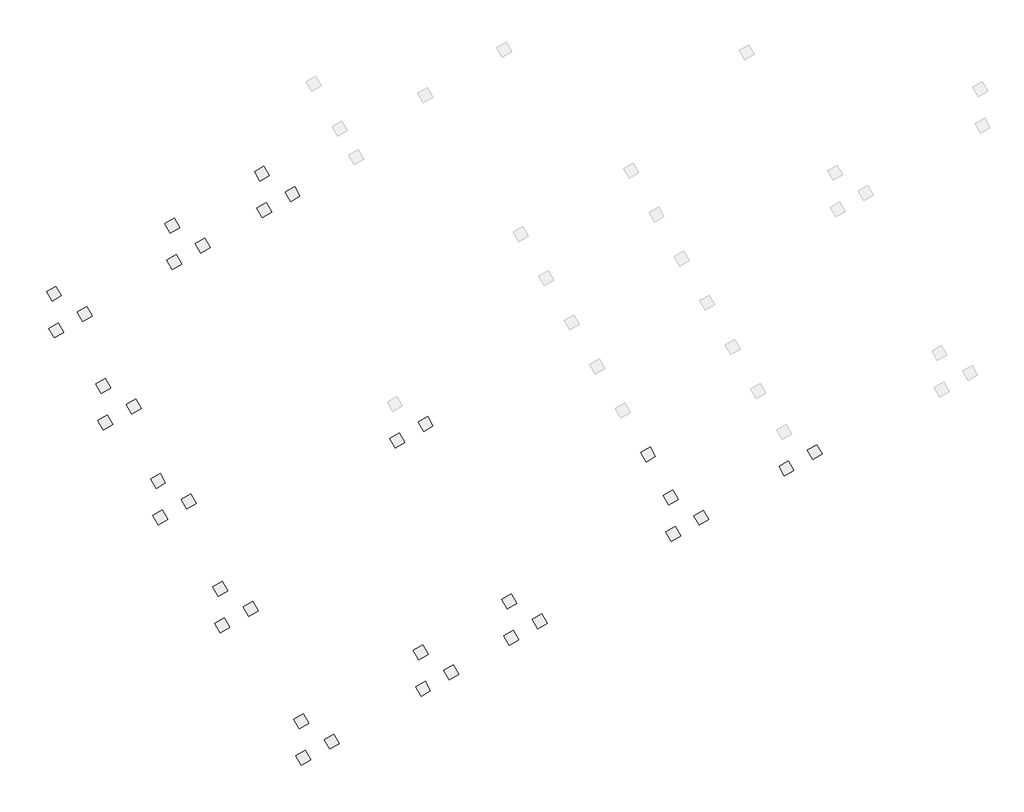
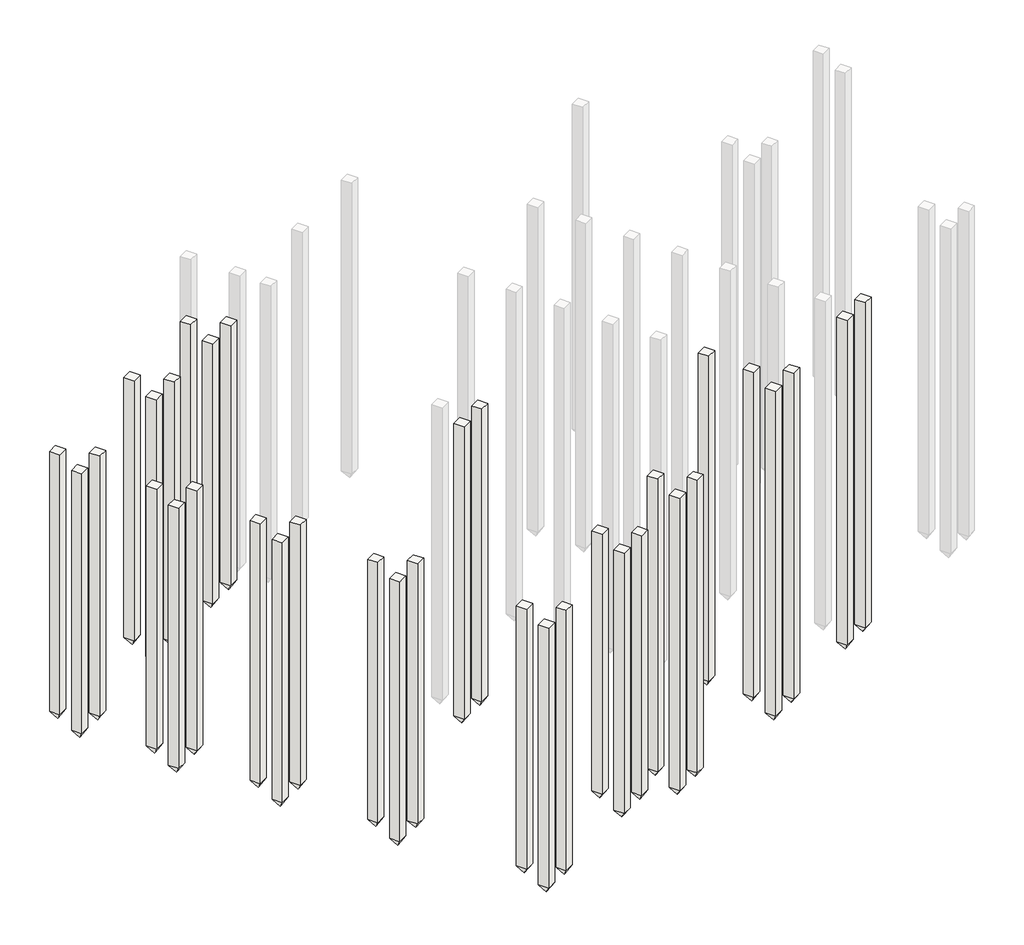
# One storey, part 1 of 6: 35 slabs.
"""IFC4 building model written with IfcOpenShell, lengths in millimetres."""

import ifcopenshell
import ifcopenshell.guid

model = None  # the IFC model being written
_history = None  # IfcOwnerHistory: only IFC2X3 demands one
_inside = {}  # id of a spatial element -> (the spatial element, [elements in it])
_under = {}  # id of a project, library or spatial element -> (it, [spatial elements below it])
_declared = {}  # id of a project -> (the project, [libraries it declares])
_typed = {}  # id of a type object -> (the type object, [elements of that type])
_made_of = {}  # id of a material, layer set ... -> (it, [elements and type objects made of it])


def new_model(schema):
    """Start an empty IFC model of exactly this schema.

    Asked for "IFC4X3", IfcOpenShell would pick the latest addendum, in which some entities
    have other attributes; the version numbers below select the first issue.
    IFC2X3 requires an IfcOwnerHistory on every rooted entity: one is made here for all.
    """
    global model, _history
    if schema == "IFC4X3":
        model = ifcopenshell.file(schema_version=(4, 3, 0, 0))
    else:
        model = ifcopenshell.file(schema=schema)
    _inside.clear()
    _under.clear()
    _declared.clear()
    _typed.clear()
    _made_of.clear()
    _history = None
    if model.schema == "IFC2X3":
        org = make("IfcOrganization", Name="unknown")
        user = make(
            "IfcPersonAndOrganization",
            ThePerson=make("IfcPerson", FamilyName="unknown"),
            TheOrganization=org,
        )
        app = make(
            "IfcApplication",
            ApplicationDeveloper=org,
            Version="unknown",
            ApplicationFullName="unknown",
            ApplicationIdentifier="unknown",
        )
        _history = make(
            "IfcOwnerHistory",
            OwningUser=user,
            OwningApplication=app,
            ChangeAction="ADDED",
            CreationDate=0,
        )
    return model


def make(cls, **values):
    """One entity of the class cls with the attributes given. An attribute that is None is left unset."""
    return model.create_entity(
        cls, **{name: value for name, value in values.items() if value is not None}
    )


def rooted(cls, **values):
    """An entity with a GlobalId (a new one), such as an element, a storey or a relation."""
    return make(cls, GlobalId=ifcopenshell.guid.new(), OwnerHistory=_history, **values)


def si_unit(unit_type, name, prefix=None):
    """IfcSIUnit, for example si_unit("LENGTHUNIT", "METRE", prefix="MILLI")."""
    return make("IfcSIUnit", UnitType=unit_type, Prefix=prefix, Name=name)


def assignment(units):
    """IfcUnitAssignment: the units of a project."""
    return None if units is None else make("IfcUnitAssignment", Units=units)


def point(xyz):
    """IfcCartesianPoint."""
    return None if xyz is None else make("IfcCartesianPoint", Coordinates=xyz)


def direction(xyz):
    """IfcDirection."""
    return None if xyz is None else make("IfcDirection", DirectionRatios=xyz)


def frame(location, z_axis=None, x_axis=None):
    """IfcAxis2Placement3D, a coordinate frame: its origin and axes. An axis left out is left unset."""
    return make(
        "IfcAxis2Placement3D",
        Location=point(location),
        Axis=direction(z_axis),
        RefDirection=direction(x_axis),
    )


def origin():
    """The frame at (0, 0, 0) with its axes left unset."""
    return frame((0.0, 0.0, 0.0))


def place(relative_to, where):
    """IfcLocalPlacement: puts the frame where relative to a parent placement (None: the world)."""
    return make(
        "IfcLocalPlacement", PlacementRelTo=relative_to, RelativePlacement=where
    )


def context(
    kind, dimensions, precision=None, world=None, true_north=None, identifier=None
):
    """IfcGeometricRepresentationContext, for example the 3D "Model" context."""
    return make(
        "IfcGeometricRepresentationContext",
        ContextIdentifier=identifier,
        ContextType=kind,
        CoordinateSpaceDimension=dimensions,
        Precision=precision,
        WorldCoordinateSystem=world,
        TrueNorth=true_north,
    )


def project(units=None, contexts=None):
    """IfcProject with its units and contexts."""
    return rooted(
        "IfcProject",
        Name="project",
        RepresentationContexts=contexts,
        UnitsInContext=assignment(units),
    )


def spatial(cls, under=None, at=None, **own):
    """A site, building, storey or space (cls), placed at a placement, below another one or the project."""
    s = rooted(cls, ObjectPlacement=at, **own)
    if under is not None:
        _under.setdefault(under.id(), (under, []))[1].append(s)
    return s


def faces_of(points, faces, orient=None, outer=None):
    """IfcFace entities. A face is a list of loops; a loop is a list of indices into points, from 0.

    orient and outer hold one flag for each loop. By default every Orientation is true, the
    first loop of a face is its IfcFaceOuterBound and the others are IfcFaceBound.
    """
    made = []
    for i, loops in enumerate(faces):
        bounds = []
        for j, loop in enumerate(loops):
            is_outer = j == 0 if outer is None else outer[i][j]
            bounds.append(
                make(
                    "IfcFaceOuterBound" if is_outer else "IfcFaceBound",
                    Bound=make("IfcPolyLoop", Polygon=[points[k] for k in loop]),
                    Orientation=True if orient is None else orient[i][j],
                )
            )
        made.append(make("IfcFace", Bounds=bounds))
    return made


def faceted_brep(points, faces, orient=None, outer=None, voids=None):
    """IfcFacetedBrep: a solid bounded by flat faces; with voids (closed shells), ...WithVoids."""
    shared = [point(p) for p in points]
    hull = make("IfcClosedShell", CfsFaces=faces_of(shared, faces, orient, outer))
    if voids is None:
        return make("IfcFacetedBrep", Outer=hull)
    return make(
        "IfcFacetedBrepWithVoids",
        Outer=hull,
        Voids=[
            make(cls, CfsFaces=faces_of(shared, fs, o, b)) for cls, fs, o, b in voids
        ],
    )


def shape(context_of_items, identifier, shape_type, items):
    """IfcShapeRepresentation: the items that make up one representation, for example the "Body"."""
    return make(
        "IfcShapeRepresentation",
        ContextOfItems=context_of_items,
        RepresentationIdentifier=identifier,
        RepresentationType=shape_type,
        Items=items,
    )


def made_of(thing, what):
    """Note that an element or type object is made of a material, layer set ...; save() writes the relation."""
    if what is not None:
        _made_of.setdefault(what.id(), (what, []))[1].append(thing)
    return thing


def element(
    cls,
    number,
    at=None,
    inside=None,
    cuts=None,
    type_object=None,
    material=None,
    context=None,
    identifier="Body",
    shape_type=None,
    held_by="IfcProductDefinitionShape",
    body=None,
    shapes=None,
    **own,
):
    """One element of the class cls, such as IfcWall. Its Tag is "e" and its number.

    at: its placement. inside: the storey or other place that contains it. cuts: it is an
    opening in that element (IfcRelVoidsElement). A single representation is given by context,
    identifier, shape_type and body (its items); several are given by shapes. held_by: the class
    of the entity that holds the representations. save() writes the other relations.
    """
    e = rooted(cls, Tag="e%d" % number, ObjectPlacement=at, **own)
    if body is not None:
        shapes = [shape(context, identifier, shape_type, body)]
    if shapes is not None:
        e.Representation = make(held_by, Representations=shapes)
    if inside is not None:
        _inside.setdefault(inside.id(), (inside, []))[1].append(e)
    if cuts is not None:
        rooted(
            "IfcRelVoidsElement", RelatingBuildingElement=cuts, RelatedOpeningElement=e
        )
    if type_object is not None:
        _typed.setdefault(type_object.id(), (type_object, []))[1].append(e)
    return made_of(e, material)


def aggregate(whole, parts):
    """IfcRelAggregates: a whole, such as a stair, and the parts it consists of."""
    return rooted("IfcRelAggregates", RelatingObject=whole, RelatedObjects=parts)


def save(model, path):
    """Write the relations noted so far, then the file.

    IfcRelAggregates (storeys below a building ...), IfcRelContainedInSpatialStructure (elements
    in a storey), IfcRelDefinesByType, IfcRelAssociatesMaterial and IfcRelDeclares: one each for
    every whole, place, type object, material and project.
    """
    for whole, parts in _under.values():
        aggregate(whole, parts)
    for where, things in _inside.values():
        rooted(
            "IfcRelContainedInSpatialStructure",
            RelatedElements=things,
            RelatingStructure=where,
        )
    for kind, things in _typed.values():
        rooted("IfcRelDefinesByType", RelatedObjects=things, RelatingType=kind)
    for what, things in _made_of.values():
        rooted("IfcRelAssociatesMaterial", RelatedObjects=things, RelatingMaterial=what)
    for by, libraries in _declared.values():
        rooted("IfcRelDeclares", RelatingContext=by, RelatedDefinitions=libraries)
    model.write(path)


model = new_model("IFC4")

# Units and contexts
model_context = context("Model", 3, world=origin())
ifc_project = project(units=[si_unit("LENGTHUNIT", "METRE", prefix="MILLI")], contexts=[model_context])

# Site, building, storey
site = spatial("IfcSite", under=ifc_project)
building = spatial("IfcBuilding", under=site)
storey = spatial("IfcBuildingStorey", under=building, Name="КЖм.-1.150 (Верх свай 1)", Elevation=-1150.0)

# Slabs
placement = place(None, origin())
element("IfcSlab", 1, ObjectType="Бетонная свая прямоугольного сечения : C100.30-9", at=placement, inside=storey, context=model_context, shape_type="Brep", body=[
    faceted_brep([(10064.444587, 5927.2944579, -1150.0), (9804.6369658, 5777.2944579, -1150.0), (9954.6369658, 5517.4868368, -1150.0), (10214.444587, 5667.4868368, -1150.0), (10064.444587, 5927.2944579, -1200.0), (10064.444587, 5927.2944579, -1300.0), (10064.444587, 5927.2944579, -11150.0), (9804.6369658, 5777.2944579, -11150.0), (9804.6369658, 5777.2944579, -1300.0), (9804.6369658, 5777.2944579, -1200.0), (9954.6369658, 5517.4868368, -11150.0), (9954.6369658, 5517.4868368, -1300.0), (9954.6369658, 5517.4868368, -1200.0), (10214.444587, 5667.4868368, -11150.0), (10214.444587, 5667.4868368, -1300.0), (10214.444587, 5667.4868368, -1200.0), (10009.7166026, 5722.9312299, -11400.0), (10010.1166026, 5722.2384096, -11400.0), (10009.4237823, 5721.8384096, -11400.0), (10009.0237823, 5722.5312299, -11400.0)], [[[0, 1, 2, 3]], [[1, 0, 4, 5, 6, 7, 8, 9]], [[2, 1, 9, 8, 7, 10, 11, 12]], [[3, 2, 12, 11, 10, 13, 14, 15]], [[0, 3, 15, 14, 13, 6, 5, 4]], [[16, 17, 18, 19]], [[17, 16, 6, 13]], [[18, 17, 13, 10]], [[19, 18, 10, 7]], [[16, 19, 7, 6]]]),
])
element("IfcSlab", 2, ObjectType="Бетонная свая прямоугольного сечения : C100.30-9", at=placement, inside=storey, context=model_context, shape_type="Brep", body=[
    faceted_brep([(10843.8294268, 6377.3603103, -1150.0), (10584.0218056, 6227.3603103, -1150.0), (10734.0218056, 5967.5526892, -1150.0), (10993.8294268, 6117.5526892, -1150.0), (10843.8294268, 6377.3603103, -1200.0), (10843.8294268, 6377.3603103, -1300.0), (10843.8294268, 6377.3603103, -11150.0), (10584.0218056, 6227.3603103, -11150.0), (10584.0218056, 6227.3603103, -1300.0), (10584.0218056, 6227.3603103, -1200.0), (10734.0218056, 5967.5526892, -11150.0), (10734.0218056, 5967.5526892, -1300.0), (10734.0218056, 5967.5526892, -1200.0), (10993.8294268, 6117.5526892, -11150.0), (10993.8294268, 6117.5526892, -1300.0), (10993.8294268, 6117.5526892, -1200.0), (10789.1014424, 6172.9970823, -11400.0), (10789.5014424, 6172.3042619, -11400.0), (10788.8086221, 6171.9042619, -11400.0), (10788.4086221, 6172.5970823, -11400.0)], [[[0, 1, 2, 3]], [[1, 0, 4, 5, 6, 7, 8, 9]], [[2, 1, 9, 8, 7, 10, 11, 12]], [[3, 2, 12, 11, 10, 13, 14, 15]], [[0, 3, 15, 14, 13, 6, 5, 4]], [[16, 17, 18, 19]], [[17, 16, 6, 13]], [[18, 17, 13, 10]], [[19, 18, 10, 7]], [[16, 19, 7, 6]]]),
])
element("IfcSlab", 3, ObjectType="Бетонная свая прямоугольного сечения : C100.30-9", at=placement, inside=storey, context=model_context, shape_type="Brep", body=[
    faceted_brep([(10004.0711547, 6931.7122249, -1150.0), (9744.2635336, 6781.7122249, -1150.0), (9894.2635336, 6521.9046037, -1150.0), (10154.0711547, 6671.9046037, -1150.0), (10004.0711547, 6931.7122249, -1200.0), (10004.0711547, 6931.7122249, -1300.0), (10004.0711547, 6931.7122249, -11150.0), (9744.2635336, 6781.7122249, -11150.0), (9744.2635336, 6781.7122249, -1300.0), (9744.2635336, 6781.7122249, -1200.0), (9894.2635336, 6521.9046037, -11150.0), (9894.2635336, 6521.9046037, -1300.0), (9894.2635336, 6521.9046037, -1200.0), (10154.0711547, 6671.9046037, -11150.0), (10154.0711547, 6671.9046037, -1300.0), (10154.0711547, 6671.9046037, -1200.0), (9949.3431704, 6727.3489968, -11400.0), (9949.7431704, 6726.6561765, -11400.0), (9949.0503501, 6726.2561765, -11400.0), (9948.6503501, 6726.9489968, -11400.0)], [[[0, 1, 2, 3]], [[1, 0, 4, 5, 6, 7, 8, 9]], [[2, 1, 9, 8, 7, 10, 11, 12]], [[3, 2, 12, 11, 10, 13, 14, 15]], [[0, 3, 15, 14, 13, 6, 5, 4]], [[16, 17, 18, 19]], [[17, 16, 6, 13]], [[18, 17, 13, 10]], [[19, 18, 10, 7]], [[16, 19, 7, 6]]]),
])
element("IfcSlab", 4, ObjectType="Бетонная свая прямоугольного сечения : C100.30-9", at=placement, inside=storey, context=model_context, shape_type="Brep", body=[
    faceted_brep([(13182.1822618, 7727.6737997, -1150.0), (12922.3746406, 7577.6737997, -1150.0), (13072.3746406, 7317.8661786, -1150.0), (13332.1822618, 7467.8661786, -1150.0), (13182.1822618, 7727.6737997, -1200.0), (13182.1822618, 7727.6737997, -1300.0), (13182.1822618, 7727.6737997, -11150.0), (12922.3746406, 7577.6737997, -11150.0), (12922.3746406, 7577.6737997, -1300.0), (12922.3746406, 7577.6737997, -1200.0), (13072.3746406, 7317.8661786, -11150.0), (13072.3746406, 7317.8661786, -1300.0), (13072.3746406, 7317.8661786, -1200.0), (13332.1822618, 7467.8661786, -11150.0), (13332.1822618, 7467.8661786, -1300.0), (13332.1822618, 7467.8661786, -1200.0), (13127.4542774, 7523.3105717, -11400.0), (13127.8542774, 7522.6177513, -11400.0), (13127.1614571, 7522.2177513, -11400.0), (13126.7614571, 7522.9105717, -11400.0)], [[[0, 1, 2, 3]], [[1, 0, 4, 5, 6, 7, 8, 9]], [[2, 1, 9, 8, 7, 10, 11, 12]], [[3, 2, 12, 11, 10, 13, 14, 15]], [[0, 3, 15, 14, 13, 6, 5, 4]], [[16, 17, 18, 19]], [[17, 16, 6, 13]], [[18, 17, 13, 10]], [[19, 18, 10, 7]], [[16, 19, 7, 6]]]),
])
element("IfcSlab", 5, ObjectType="Бетонная свая прямоугольного сечения : C100.30-9", at=placement, inside=storey, context=model_context, shape_type="Brep", body=[
    faceted_brep([(13961.5671016, 8177.7396521, -1150.0), (13701.7594804, 8027.7396521, -1150.0), (13851.7594804, 7767.9320309, -1150.0), (14111.5671016, 7917.9320309, -1150.0), (13961.5671016, 8177.7396521, -1200.0), (13961.5671016, 8177.7396521, -1300.0), (13961.5671016, 8177.7396521, -11150.0), (13701.7594804, 8027.7396521, -11150.0), (13701.7594804, 8027.7396521, -1300.0), (13701.7594804, 8027.7396521, -1200.0), (13851.7594804, 7767.9320309, -11150.0), (13851.7594804, 7767.9320309, -1300.0), (13851.7594804, 7767.9320309, -1200.0), (14111.5671016, 7917.9320309, -11150.0), (14111.5671016, 7917.9320309, -1300.0), (14111.5671016, 7917.9320309, -1200.0), (13906.8391172, 7973.376424, -11400.0), (13907.2391172, 7972.6836037, -11400.0), (13906.5462969, 7972.2836037, -11400.0), (13906.1462969, 7972.976424, -11400.0)], [[[0, 1, 2, 3]], [[1, 0, 4, 5, 6, 7, 8, 9]], [[2, 1, 9, 8, 7, 10, 11, 12]], [[3, 2, 12, 11, 10, 13, 14, 15]], [[0, 3, 15, 14, 13, 6, 5, 4]], [[16, 17, 18, 19]], [[17, 16, 6, 13]], [[18, 17, 13, 10]], [[19, 18, 10, 7]], [[16, 19, 7, 6]]]),
])
element("IfcSlab", 6, ObjectType="Бетонная свая прямоугольного сечения : C100.30-9", at=placement, inside=storey, context=model_context, shape_type="Brep", body=[
    faceted_brep([(9376.2869426, 8110.8953622, -1150.0), (9116.4793215, 7960.8953622, -1150.0), (9266.4793215, 7701.0877411, -1150.0), (9526.2869426, 7851.0877411, -1150.0), (9376.2869426, 8110.8953622, -1200.0), (9376.2869426, 8110.8953622, -1300.0), (9376.2869426, 8110.8953622, -11150.0), (9116.4793215, 7960.8953622, -11150.0), (9116.4793215, 7960.8953622, -1300.0), (9116.4793215, 7960.8953622, -1200.0), (9266.4793215, 7701.0877411, -11150.0), (9266.4793215, 7701.0877411, -1300.0), (9266.4793215, 7701.0877411, -1200.0), (9526.2869426, 7851.0877411, -11150.0), (9526.2869426, 7851.0877411, -1300.0), (9526.2869426, 7851.0877411, -1200.0), (9321.5589582, 7906.5321342, -11400.0), (9321.9589582, 7905.8393138, -11400.0), (9321.2661379, 7905.4393138, -11400.0), (9320.8661379, 7906.1321342, -11400.0)], [[[0, 1, 2, 3]], [[1, 0, 4, 5, 6, 7, 8, 9]], [[2, 1, 9, 8, 7, 10, 11, 12]], [[3, 2, 12, 11, 10, 13, 14, 15]], [[0, 3, 15, 14, 13, 6, 5, 4]], [[16, 17, 18, 19]], [[17, 16, 6, 13]], [[18, 17, 13, 10]], [[19, 18, 10, 7]], [[16, 19, 7, 6]]]),
])
element("IfcSlab", 7, ObjectType="Бетонная свая прямоугольного сечения : C80.30-8", at=placement, inside=storey, context=model_context, shape_type="Brep", body=[
    faceted_brep([(-98.4468377, -229.431171, -1150.0), (-358.2544589, -379.431171, -1150.0), (-208.2544589, -639.2387921, -1150.0), (51.5531623, -489.2387921, -1150.0), (-98.4468377, -229.431171, -1200.0), (-98.4468377, -229.431171, -1300.0), (-98.4468377, -229.431171, -9150.0), (-358.2544589, -379.431171, -9150.0), (-358.2544589, -379.431171, -1300.0), (-358.2544589, -379.431171, -1200.0), (-208.2544589, -639.2387921, -9150.0), (-208.2544589, -639.2387921, -1300.0), (-208.2544589, -639.2387921, -1200.0), (51.5531623, -489.2387921, -9150.0), (51.5531623, -489.2387921, -1300.0), (51.5531623, -489.2387921, -1200.0), (-153.1748221, -433.794399, -9400.0), (-152.7748221, -434.4872193, -9400.0), (-153.4676424, -434.8872193, -9400.0), (-153.8676424, -434.194399, -9400.0)], [[[0, 1, 2, 3]], [[1, 0, 4, 5, 6, 7, 8, 9]], [[2, 1, 9, 8, 7, 10, 11, 12]], [[3, 2, 12, 11, 10, 13, 14, 15]], [[0, 3, 15, 14, 13, 6, 5, 4]], [[16, 17, 18, 19]], [[17, 16, 6, 13]], [[18, 17, 13, 10]], [[19, 18, 10, 7]], [[16, 19, 7, 6]]]),
])
element("IfcSlab", 8, ObjectType="Бетонная свая прямоугольного сечения : C80.30-8", at=placement, inside=storey, context=model_context, shape_type="Brep", body=[
    faceted_brep([(680.9380021, 220.6346814, -1150.0), (421.1303809, 70.6346814, -1150.0), (571.1303809, -189.1729397, -1150.0), (830.9380021, -39.1729397, -1150.0), (680.9380021, 220.6346814, -1200.0), (680.9380021, 220.6346814, -1300.0), (680.9380021, 220.6346814, -9150.0), (421.1303809, 70.6346814, -9150.0), (421.1303809, 70.6346814, -1300.0), (421.1303809, 70.6346814, -1200.0), (571.1303809, -189.1729397, -9150.0), (571.1303809, -189.1729397, -1300.0), (571.1303809, -189.1729397, -1200.0), (830.9380021, -39.1729397, -9150.0), (830.9380021, -39.1729397, -1300.0), (830.9380021, -39.1729397, -1200.0), (626.2100177, 16.2714534, -9400.0), (626.6100177, 15.578633, -9400.0), (625.9171974, 15.178633, -9400.0), (625.5171974, 15.8714534, -9400.0)], [[[0, 1, 2, 3]], [[1, 0, 4, 5, 6, 7, 8, 9]], [[2, 1, 9, 8, 7, 10, 11, 12]], [[3, 2, 12, 11, 10, 13, 14, 15]], [[0, 3, 15, 14, 13, 6, 5, 4]], [[16, 17, 18, 19]], [[17, 16, 6, 13]], [[18, 17, 13, 10]], [[19, 18, 10, 7]], [[16, 19, 7, 6]]]),
])
element("IfcSlab", 9, ObjectType="Бетонная свая прямоугольного сечения : C80.30-8", at=placement, inside=storey, context=model_context, shape_type="Brep", body=[
    faceted_brep([(-158.82027, 774.986596, -1150.0), (-418.6278911, 624.986596, -1150.0), (-268.6278911, 365.1789748, -1150.0), (-8.82027, 515.1789748, -1150.0), (-158.82027, 774.986596, -1200.0), (-158.82027, 774.986596, -1300.0), (-158.82027, 774.986596, -9150.0), (-418.6278911, 624.986596, -9150.0), (-418.6278911, 624.986596, -1300.0), (-418.6278911, 624.986596, -1200.0), (-268.6278911, 365.1789748, -9150.0), (-268.6278911, 365.1789748, -1300.0), (-268.6278911, 365.1789748, -1200.0), (-8.82027, 515.1789748, -9150.0), (-8.82027, 515.1789748, -1300.0), (-8.82027, 515.1789748, -1200.0), (-213.5482543, 570.6233679, -9400.0), (-213.1482543, 569.9305476, -9400.0), (-213.8410746, 569.5305476, -9400.0), (-214.2410746, 570.2233679, -9400.0)], [[[0, 1, 2, 3]], [[1, 0, 4, 5, 6, 7, 8, 9]], [[2, 1, 9, 8, 7, 10, 11, 12]], [[3, 2, 12, 11, 10, 13, 14, 15]], [[0, 3, 15, 14, 13, 6, 5, 4]], [[16, 17, 18, 19]], [[17, 16, 6, 13]], [[18, 17, 13, 10]], [[19, 18, 10, 7]], [[16, 19, 7, 6]]]),
])
element("IfcSlab", 10, ObjectType="Бетонная свая прямоугольного сечения : C80.30-8", at=placement, inside=storey, context=model_context, shape_type="Brep", body=[
    faceted_brep([(-2320.0629527, 3417.818694, -1150.0), (-2579.8705739, 3267.818694, -1150.0), (-2429.8705739, 3008.0110729, -1150.0), (-2170.0629527, 3158.0110729, -1150.0), (-2320.0629527, 3417.818694, -1200.0), (-2320.0629527, 3417.818694, -1300.0), (-2320.0629527, 3417.818694, -9150.0), (-2579.8705739, 3267.818694, -9150.0), (-2579.8705739, 3267.818694, -1300.0), (-2579.8705739, 3267.818694, -1200.0), (-2429.8705739, 3008.0110729, -9150.0), (-2429.8705739, 3008.0110729, -1300.0), (-2429.8705739, 3008.0110729, -1200.0), (-2170.0629527, 3158.0110729, -9150.0), (-2170.0629527, 3158.0110729, -1300.0), (-2170.0629527, 3158.0110729, -1200.0), (-2374.7909371, 3213.455466, -9400.0), (-2374.3909371, 3212.7626457, -9400.0), (-2375.0837574, 3212.3626457, -9400.0), (-2375.4837574, 3213.055466, -9400.0)], [[[0, 1, 2, 3]], [[1, 0, 4, 5, 6, 7, 8, 9]], [[2, 1, 9, 8, 7, 10, 11, 12]], [[3, 2, 12, 11, 10, 13, 14, 15]], [[0, 3, 15, 14, 13, 6, 5, 4]], [[16, 17, 18, 19]], [[17, 16, 6, 13]], [[18, 17, 13, 10]], [[19, 18, 10, 7]], [[16, 19, 7, 6]]]),
])
element("IfcSlab", 11, ObjectType="Бетонная свая прямоугольного сечения : C80.30-8", at=placement, inside=storey, context=model_context, shape_type="Brep", body=[
    faceted_brep([(-1540.6781129, 3867.8845464, -1150.0), (-1800.4857341, 3717.8845464, -1150.0), (-1650.4857341, 3458.0769253, -1150.0), (-1390.6781129, 3608.0769253, -1150.0), (-1540.6781129, 3867.8845464, -1200.0), (-1540.6781129, 3867.8845464, -1300.0), (-1540.6781129, 3867.8845464, -9150.0), (-1800.4857341, 3717.8845464, -9150.0), (-1800.4857341, 3717.8845464, -1300.0), (-1800.4857341, 3717.8845464, -1200.0), (-1650.4857341, 3458.0769253, -9150.0), (-1650.4857341, 3458.0769253, -1300.0), (-1650.4857341, 3458.0769253, -1200.0), (-1390.6781129, 3608.0769253, -9150.0), (-1390.6781129, 3608.0769253, -1300.0), (-1390.6781129, 3608.0769253, -1200.0), (-1595.4060973, 3663.5213184, -9400.0), (-1595.0060973, 3662.828498, -9400.0), (-1595.6989176, 3662.428498, -9400.0), (-1596.0989176, 3663.1213184, -9400.0)], [[[0, 1, 2, 3]], [[1, 0, 4, 5, 6, 7, 8, 9]], [[2, 1, 9, 8, 7, 10, 11, 12]], [[3, 2, 12, 11, 10, 13, 14, 15]], [[0, 3, 15, 14, 13, 6, 5, 4]], [[16, 17, 18, 19]], [[17, 16, 6, 13]], [[18, 17, 13, 10]], [[19, 18, 10, 7]], [[16, 19, 7, 6]]]),
])
element("IfcSlab", 12, ObjectType="Бетонная свая прямоугольного сечения : C80.30-8", at=placement, inside=storey, context=model_context, shape_type="Brep", body=[
    faceted_brep([(-2380.4363849, 4422.236461, -1150.0), (-2640.2440061, 4272.236461, -1150.0), (-2490.2440061, 4012.4288398, -1150.0), (-2230.4363849, 4162.4288398, -1150.0), (-2380.4363849, 4422.236461, -1200.0), (-2380.4363849, 4422.236461, -1300.0), (-2380.4363849, 4422.236461, -9150.0), (-2640.2440061, 4272.236461, -9150.0), (-2640.2440061, 4272.236461, -1300.0), (-2640.2440061, 4272.236461, -1200.0), (-2490.2440061, 4012.4288398, -9150.0), (-2490.2440061, 4012.4288398, -1300.0), (-2490.2440061, 4012.4288398, -1200.0), (-2230.4363849, 4162.4288398, -9150.0), (-2230.4363849, 4162.4288398, -1300.0), (-2230.4363849, 4162.4288398, -1200.0), (-2435.1643693, 4217.8732329, -9400.0), (-2434.7643693, 4217.1804126, -9400.0), (-2435.4571896, 4216.7804126, -9400.0), (-2435.8571896, 4217.4732329, -9400.0)], [[[0, 1, 2, 3]], [[1, 0, 4, 5, 6, 7, 8, 9]], [[2, 1, 9, 8, 7, 10, 11, 12]], [[3, 2, 12, 11, 10, 13, 14, 15]], [[0, 3, 15, 14, 13, 6, 5, 4]], [[16, 17, 18, 19]], [[17, 16, 6, 13]], [[18, 17, 13, 10]], [[19, 18, 10, 7]], [[16, 19, 7, 6]]]),
])
element("IfcSlab", 13, ObjectType="Бетонная свая прямоугольного сечения : C80.30-8", at=placement, inside=storey, context=model_context, shape_type="Brep", body=[
    faceted_brep([(-4030.3141336, 6379.4805427, -1150.0), (-4290.1217547, 6229.4805427, -1150.0), (-4140.1217547, 5969.6729215, -1150.0), (-3880.3141336, 6119.6729215, -1150.0), (-4030.3141336, 6379.4805427, -1200.0), (-4030.3141336, 6379.4805427, -1300.0), (-4030.3141336, 6379.4805427, -9150.0), (-4290.1217547, 6229.4805427, -9150.0), (-4290.1217547, 6229.4805427, -1300.0), (-4290.1217547, 6229.4805427, -1200.0), (-4140.1217547, 5969.6729215, -9150.0), (-4140.1217547, 5969.6729215, -1300.0), (-4140.1217547, 5969.6729215, -1200.0), (-3880.3141336, 6119.6729215, -9150.0), (-3880.3141336, 6119.6729215, -1300.0), (-3880.3141336, 6119.6729215, -1200.0), (-4085.0421179, 6175.1173146, -9400.0), (-4084.6421179, 6174.4244943, -9400.0), (-4085.3349383, 6174.0244943, -9400.0), (-4085.7349383, 6174.7173146, -9400.0)], [[[0, 1, 2, 3]], [[1, 0, 4, 5, 6, 7, 8, 9]], [[2, 1, 9, 8, 7, 10, 11, 12]], [[3, 2, 12, 11, 10, 13, 14, 15]], [[0, 3, 15, 14, 13, 6, 5, 4]], [[16, 17, 18, 19]], [[17, 16, 6, 13]], [[18, 17, 13, 10]], [[19, 18, 10, 7]], [[16, 19, 7, 6]]]),
])
element("IfcSlab", 14, ObjectType="Бетонная свая прямоугольного сечения : C80.30-8", at=placement, inside=storey, context=model_context, shape_type="Brep", body=[
    faceted_brep([(-3250.9292938, 6829.546395, -1150.0), (-3510.7369149, 6679.546395, -1150.0), (-3360.7369149, 6419.7387739, -1150.0), (-3100.9292938, 6569.7387739, -1150.0), (-3250.9292938, 6829.546395, -1200.0), (-3250.9292938, 6829.546395, -1300.0), (-3250.9292938, 6829.546395, -9150.0), (-3510.7369149, 6679.546395, -9150.0), (-3510.7369149, 6679.546395, -1300.0), (-3510.7369149, 6679.546395, -1200.0), (-3360.7369149, 6419.7387739, -9150.0), (-3360.7369149, 6419.7387739, -1300.0), (-3360.7369149, 6419.7387739, -1200.0), (-3100.9292938, 6569.7387739, -9150.0), (-3100.9292938, 6569.7387739, -1300.0), (-3100.9292938, 6569.7387739, -1200.0), (-3305.6572781, 6625.183167, -9400.0), (-3305.2572781, 6624.4903467, -9400.0), (-3305.9500984, 6624.0903467, -9400.0), (-3306.3500984, 6624.783167, -9400.0)], [[[0, 1, 2, 3]], [[1, 0, 4, 5, 6, 7, 8, 9]], [[2, 1, 9, 8, 7, 10, 11, 12]], [[3, 2, 12, 11, 10, 13, 14, 15]], [[0, 3, 15, 14, 13, 6, 5, 4]], [[16, 17, 18, 19]], [[17, 16, 6, 13]], [[18, 17, 13, 10]], [[19, 18, 10, 7]], [[16, 19, 7, 6]]]),
])
element("IfcSlab", 15, ObjectType="Бетонная свая прямоугольного сечения : C80.30-8", at=placement, inside=storey, context=model_context, shape_type="Brep", body=[
    faceted_brep([(-4090.6875658, 7383.8983096, -1150.0), (-4350.4951869, 7233.8983096, -1150.0), (-4200.4951869, 6974.0906885, -1150.0), (-3940.6875658, 7124.0906885, -1150.0), (-4090.6875658, 7383.8983096, -1200.0), (-4090.6875658, 7383.8983096, -1300.0), (-4090.6875658, 7383.8983096, -9150.0), (-4350.4951869, 7233.8983096, -9150.0), (-4350.4951869, 7233.8983096, -1300.0), (-4350.4951869, 7233.8983096, -1200.0), (-4200.4951869, 6974.0906885, -9150.0), (-4200.4951869, 6974.0906885, -1300.0), (-4200.4951869, 6974.0906885, -1200.0), (-3940.6875658, 7124.0906885, -9150.0), (-3940.6875658, 7124.0906885, -1300.0), (-3940.6875658, 7124.0906885, -1200.0), (-4145.4155501, 7179.5350815, -9400.0), (-4145.0155501, 7178.8422612, -9400.0), (-4145.7083705, 7178.4422612, -9400.0), (-4146.1083705, 7179.1350815, -9400.0)], [[[0, 1, 2, 3]], [[1, 0, 4, 5, 6, 7, 8, 9]], [[2, 1, 9, 8, 7, 10, 11, 12]], [[3, 2, 12, 11, 10, 13, 14, 15]], [[0, 3, 15, 14, 13, 6, 5, 4]], [[16, 17, 18, 19]], [[17, 16, 6, 13]], [[18, 17, 13, 10]], [[19, 18, 10, 7]], [[16, 19, 7, 6]]]),
])
element("IfcSlab", 16, ObjectType="Бетонная свая прямоугольного сечения : C80.30-8", at=placement, inside=storey, context=model_context, shape_type="Brep", body=[
    faceted_brep([(-6889.1369622, 11530.1080483, -1150.0), (-7148.9445833, 11380.1080483, -1150.0), (-6998.9445833, 11120.3004271, -1150.0), (-6739.1369622, 11270.3004271, -1150.0), (-6889.1369622, 11530.1080483, -1200.0), (-6889.1369622, 11530.1080483, -1300.0), (-6889.1369622, 11530.1080483, -9150.0), (-7148.9445833, 11380.1080483, -9150.0), (-7148.9445833, 11380.1080483, -1300.0), (-7148.9445833, 11380.1080483, -1200.0), (-6998.9445833, 11120.3004271, -9150.0), (-6998.9445833, 11120.3004271, -1300.0), (-6998.9445833, 11120.3004271, -1200.0), (-6739.1369622, 11270.3004271, -9150.0), (-6739.1369622, 11270.3004271, -1300.0), (-6739.1369622, 11270.3004271, -1200.0), (-6943.8649465, 11325.7448202, -9400.0), (-6943.4649465, 11325.0519999, -9400.0), (-6944.1577669, 11324.6519999, -9400.0), (-6944.5577669, 11325.3448202, -9400.0)], [[[0, 1, 2, 3]], [[1, 0, 4, 5, 6, 7, 8, 9]], [[2, 1, 9, 8, 7, 10, 11, 12]], [[3, 2, 12, 11, 10, 13, 14, 15]], [[0, 3, 15, 14, 13, 6, 5, 4]], [[16, 17, 18, 19]], [[17, 16, 6, 13]], [[18, 17, 13, 10]], [[19, 18, 10, 7]], [[16, 19, 7, 6]]]),
])
element("IfcSlab", 17, ObjectType="Бетонная свая прямоугольного сечения : C80.30-8", at=placement, inside=storey, context=model_context, shape_type="Brep", body=[
    faceted_brep([(-6109.7521224, 11980.1739007, -1150.0), (-6369.5597435, 11830.1739007, -1150.0), (-6219.5597435, 11570.3662795, -1150.0), (-5959.7521224, 11720.3662795, -1150.0), (-6109.7521224, 11980.1739007, -1200.0), (-6109.7521224, 11980.1739007, -1300.0), (-6109.7521224, 11980.1739007, -9150.0), (-6369.5597435, 11830.1739007, -9150.0), (-6369.5597435, 11830.1739007, -1300.0), (-6369.5597435, 11830.1739007, -1200.0), (-6219.5597435, 11570.3662795, -9150.0), (-6219.5597435, 11570.3662795, -1300.0), (-6219.5597435, 11570.3662795, -1200.0), (-5959.7521224, 11720.3662795, -9150.0), (-5959.7521224, 11720.3662795, -1300.0), (-5959.7521224, 11720.3662795, -1200.0), (-6164.4801067, 11775.8106726, -9400.0), (-6164.0801067, 11775.1178523, -9400.0), (-6164.7729271, 11774.7178523, -9400.0), (-6165.1729271, 11775.4106726, -9400.0)], [[[0, 1, 2, 3]], [[1, 0, 4, 5, 6, 7, 8, 9]], [[2, 1, 9, 8, 7, 10, 11, 12]], [[3, 2, 12, 11, 10, 13, 14, 15]], [[0, 3, 15, 14, 13, 6, 5, 4]], [[16, 17, 18, 19]], [[17, 16, 6, 13]], [[18, 17, 13, 10]], [[19, 18, 10, 7]], [[16, 19, 7, 6]]]),
])
element("IfcSlab", 18, ObjectType="Бетонная свая прямоугольного сечения : C80.30-8", at=placement, inside=storey, context=model_context, shape_type="Brep", body=[
    faceted_brep([(-6949.5103944, 12534.5258152, -1150.0), (-7209.3180155, 12384.5258152, -1150.0), (-7059.3180155, 12124.7181941, -1150.0), (-6799.5103944, 12274.7181941, -1150.0), (-6949.5103944, 12534.5258152, -1200.0), (-6949.5103944, 12534.5258152, -1300.0), (-6949.5103944, 12534.5258152, -9150.0), (-7209.3180155, 12384.5258152, -9150.0), (-7209.3180155, 12384.5258152, -1300.0), (-7209.3180155, 12384.5258152, -1200.0), (-7059.3180155, 12124.7181941, -9150.0), (-7059.3180155, 12124.7181941, -1300.0), (-7059.3180155, 12124.7181941, -1200.0), (-6799.5103944, 12274.7181941, -9150.0), (-6799.5103944, 12274.7181941, -1300.0), (-6799.5103944, 12274.7181941, -1200.0), (-7004.2383788, 12330.1625872, -9400.0), (-7003.8383788, 12329.4697668, -9400.0), (-7004.5311991, 12329.0697668, -9400.0), (-7004.9311991, 12329.7625872, -9400.0)], [[[0, 1, 2, 3]], [[1, 0, 4, 5, 6, 7, 8, 9]], [[2, 1, 9, 8, 7, 10, 11, 12]], [[3, 2, 12, 11, 10, 13, 14, 15]], [[0, 3, 15, 14, 13, 6, 5, 4]], [[16, 17, 18, 19]], [[17, 16, 6, 13]], [[18, 17, 13, 10]], [[19, 18, 10, 7]], [[16, 19, 7, 6]]]),
])
element("IfcSlab", 19, ObjectType="Бетонная свая прямоугольного сечения : C80.30-8", at=placement, inside=storey, context=model_context, shape_type="Brep", body=[
    faceted_brep([(-3641.7007254, 13405.3834649, -1150.0), (-3901.5083465, 13255.3834649, -1150.0), (-3751.5083465, 12995.5758437, -1150.0), (-3491.7007254, 13145.5758437, -1150.0), (-3641.7007254, 13405.3834649, -1200.0), (-3641.7007254, 13405.3834649, -1300.0), (-3641.7007254, 13405.3834649, -9150.0), (-3901.5083465, 13255.3834649, -9150.0), (-3901.5083465, 13255.3834649, -1300.0), (-3901.5083465, 13255.3834649, -1200.0), (-3751.5083465, 12995.5758437, -9150.0), (-3751.5083465, 12995.5758437, -1300.0), (-3751.5083465, 12995.5758437, -1200.0), (-3491.7007254, 13145.5758437, -9150.0), (-3491.7007254, 13145.5758437, -1300.0), (-3491.7007254, 13145.5758437, -1200.0), (-3696.4287098, 13201.0202368, -9400.0), (-3696.0287098, 13200.3274165, -9400.0), (-3696.7215301, 13199.9274165, -9400.0), (-3697.1215301, 13200.6202368, -9400.0)], [[[0, 1, 2, 3]], [[1, 0, 4, 5, 6, 7, 8, 9]], [[2, 1, 9, 8, 7, 10, 11, 12]], [[3, 2, 12, 11, 10, 13, 14, 15]], [[0, 3, 15, 14, 13, 6, 5, 4]], [[16, 17, 18, 19]], [[17, 16, 6, 13]], [[18, 17, 13, 10]], [[19, 18, 10, 7]], [[16, 19, 7, 6]]]),
])
element("IfcSlab", 20, ObjectType="Бетонная свая прямоугольного сечения : C80.30-8", at=placement, inside=storey, context=model_context, shape_type="Brep", body=[
    faceted_brep([(-2862.3158856, 13855.4493172, -1150.0), (-3122.1235067, 13705.4493172, -1150.0), (-2972.1235067, 13445.6416961, -1150.0), (-2712.3158856, 13595.6416961, -1150.0), (-2862.3158856, 13855.4493172, -1200.0), (-2862.3158856, 13855.4493172, -1300.0), (-2862.3158856, 13855.4493172, -9150.0), (-3122.1235067, 13705.4493172, -9150.0), (-3122.1235067, 13705.4493172, -1300.0), (-3122.1235067, 13705.4493172, -1200.0), (-2972.1235067, 13445.6416961, -9150.0), (-2972.1235067, 13445.6416961, -1300.0), (-2972.1235067, 13445.6416961, -1200.0), (-2712.3158856, 13595.6416961, -9150.0), (-2712.3158856, 13595.6416961, -1300.0), (-2712.3158856, 13595.6416961, -1200.0), (-2917.04387, 13651.0860892, -9400.0), (-2916.64387, 13650.3932689, -9400.0), (-2917.3366903, 13649.9932689, -9400.0), (-2917.7366903, 13650.6860892, -9400.0)], [[[0, 1, 2, 3]], [[1, 0, 4, 5, 6, 7, 8, 9]], [[2, 1, 9, 8, 7, 10, 11, 12]], [[3, 2, 12, 11, 10, 13, 14, 15]], [[0, 3, 15, 14, 13, 6, 5, 4]], [[16, 17, 18, 19]], [[17, 16, 6, 13]], [[18, 17, 13, 10]], [[19, 18, 10, 7]], [[16, 19, 7, 6]]]),
])
element("IfcSlab", 21, ObjectType="Бетонная свая прямоугольного сечения : C80.30-8", at=placement, inside=storey, context=model_context, shape_type="Brep", body=[
    faceted_brep([(-3702.0741576, 14409.8012318, -1150.0), (-3961.8817788, 14259.8012318, -1150.0), (-3811.8817788, 13999.9936107, -1150.0), (-3552.0741576, 14149.9936107, -1150.0), (-3702.0741576, 14409.8012318, -1200.0), (-3702.0741576, 14409.8012318, -1300.0), (-3702.0741576, 14409.8012318, -9150.0), (-3961.8817788, 14259.8012318, -9150.0), (-3961.8817788, 14259.8012318, -1300.0), (-3961.8817788, 14259.8012318, -1200.0), (-3811.8817788, 13999.9936107, -9150.0), (-3811.8817788, 13999.9936107, -1300.0), (-3811.8817788, 13999.9936107, -1200.0), (-3552.0741576, 14149.9936107, -9150.0), (-3552.0741576, 14149.9936107, -1300.0), (-3552.0741576, 14149.9936107, -1200.0), (-3756.802142, 14205.4380038, -9400.0), (-3756.402142, 14204.7451834, -9400.0), (-3757.0949623, 14204.3451834, -9400.0), (-3757.4949623, 14205.0380038, -9400.0)], [[[0, 1, 2, 3]], [[1, 0, 4, 5, 6, 7, 8, 9]], [[2, 1, 9, 8, 7, 10, 11, 12]], [[3, 2, 12, 11, 10, 13, 14, 15]], [[0, 3, 15, 14, 13, 6, 5, 4]], [[16, 17, 18, 19]], [[17, 16, 6, 13]], [[18, 17, 13, 10]], [[19, 18, 10, 7]], [[16, 19, 7, 6]]]),
])
element("IfcSlab", 22, ObjectType="Бетонная свая прямоугольного сечения : C80.30-8", at=placement, inside=storey, context=model_context, shape_type="Brep", body=[
    faceted_brep([(-1173.6477753, 14830.5935942, -1150.0), (-1433.4553964, 14680.5935942, -1150.0), (-1283.4553964, 14420.7859731, -1150.0), (-1023.6477753, 14570.7859731, -1150.0), (-1173.6477753, 14830.5935942, -1200.0), (-1173.6477753, 14830.5935942, -1300.0), (-1173.6477753, 14830.5935942, -9150.0), (-1433.4553964, 14680.5935942, -9150.0), (-1433.4553964, 14680.5935942, -1300.0), (-1433.4553964, 14680.5935942, -1200.0), (-1283.4553964, 14420.7859731, -9150.0), (-1283.4553964, 14420.7859731, -1300.0), (-1283.4553964, 14420.7859731, -1200.0), (-1023.6477753, 14570.7859731, -9150.0), (-1023.6477753, 14570.7859731, -1300.0), (-1023.6477753, 14570.7859731, -1200.0), (-1228.3757596, 14626.2303662, -9400.0), (-1227.9757596, 14625.5375459, -9400.0), (-1228.66858, 14625.1375459, -9400.0), (-1229.06858, 14625.8303662, -9400.0)], [[[0, 1, 2, 3]], [[1, 0, 4, 5, 6, 7, 8, 9]], [[2, 1, 9, 8, 7, 10, 11, 12]], [[3, 2, 12, 11, 10, 13, 14, 15]], [[0, 3, 15, 14, 13, 6, 5, 4]], [[16, 17, 18, 19]], [[17, 16, 6, 13]], [[18, 17, 13, 10]], [[19, 18, 10, 7]], [[16, 19, 7, 6]]]),
])
element("IfcSlab", 23, ObjectType="Бетонная свая прямоугольного сечения : C80.30-8", at=placement, inside=storey, context=model_context, shape_type="Brep", body=[
    faceted_brep([(-394.2629355, 15280.6594466, -1150.0), (-654.0705566, 15130.6594466, -1150.0), (-504.0705566, 14870.8518255, -1150.0), (-244.2629355, 15020.8518255, -1150.0), (-394.2629355, 15280.6594466, -1200.0), (-394.2629355, 15280.6594466, -1300.0), (-394.2629355, 15280.6594466, -9150.0), (-654.0705566, 15130.6594466, -9150.0), (-654.0705566, 15130.6594466, -1300.0), (-654.0705566, 15130.6594466, -1200.0), (-504.0705566, 14870.8518255, -9150.0), (-504.0705566, 14870.8518255, -1300.0), (-504.0705566, 14870.8518255, -1200.0), (-244.2629355, 15020.8518255, -9150.0), (-244.2629355, 15020.8518255, -1300.0), (-244.2629355, 15020.8518255, -1200.0), (-448.9909198, 15076.2962186, -9400.0), (-448.5909198, 15075.6033982, -9400.0), (-449.2837402, 15075.2033982, -9400.0), (-449.6837402, 15075.8962186, -9400.0)], [[[0, 1, 2, 3]], [[1, 0, 4, 5, 6, 7, 8, 9]], [[2, 1, 9, 8, 7, 10, 11, 12]], [[3, 2, 12, 11, 10, 13, 14, 15]], [[0, 3, 15, 14, 13, 6, 5, 4]], [[16, 17, 18, 19]], [[17, 16, 6, 13]], [[18, 17, 13, 10]], [[19, 18, 10, 7]], [[16, 19, 7, 6]]]),
])
element("IfcSlab", 24, ObjectType="Бетонная свая прямоугольного сечения : C80.30-8", at=placement, inside=storey, context=model_context, shape_type="Brep", body=[
    faceted_brep([(-1234.0212075, 15835.0113612, -1150.0), (-1493.8288286, 15685.0113612, -1150.0), (-1343.8288286, 15425.20374, -1150.0), (-1084.0212075, 15575.20374, -1150.0), (-1234.0212075, 15835.0113612, -1200.0), (-1234.0212075, 15835.0113612, -1300.0), (-1234.0212075, 15835.0113612, -9150.0), (-1493.8288286, 15685.0113612, -9150.0), (-1493.8288286, 15685.0113612, -1300.0), (-1493.8288286, 15685.0113612, -1200.0), (-1343.8288286, 15425.20374, -9150.0), (-1343.8288286, 15425.20374, -1300.0), (-1343.8288286, 15425.20374, -1200.0), (-1084.0212075, 15575.20374, -9150.0), (-1084.0212075, 15575.20374, -1300.0), (-1084.0212075, 15575.20374, -1200.0), (-1288.7491919, 15630.6481331, -9400.0), (-1288.3491919, 15629.9553128, -9400.0), (-1289.0420122, 15629.5553128, -9400.0), (-1289.4420122, 15630.2481331, -9400.0)], [[[0, 1, 2, 3]], [[1, 0, 4, 5, 6, 7, 8, 9]], [[2, 1, 9, 8, 7, 10, 11, 12]], [[3, 2, 12, 11, 10, 13, 14, 15]], [[0, 3, 15, 14, 13, 6, 5, 4]], [[16, 17, 18, 19]], [[17, 16, 6, 13]], [[18, 17, 13, 10]], [[19, 18, 10, 7]], [[16, 19, 7, 6]]]),
])
element("IfcSlab", 25, ObjectType="Бетонная свая прямоугольного сечения : C80.30-8", at=placement, inside=storey, context=model_context, shape_type="Brep", body=[
    faceted_brep([(3192.5843412, 1670.3577323, -1150.0), (2932.7767201, 1520.3577323, -1150.0), (3082.7767201, 1260.5501112, -1150.0), (3342.5843412, 1410.5501112, -1150.0), (3192.5843412, 1670.3577323, -1200.0), (3192.5843412, 1670.3577323, -1300.0), (3192.5843412, 1670.3577323, -9150.0), (2932.7767201, 1520.3577323, -9150.0), (2932.7767201, 1520.3577323, -1300.0), (2932.7767201, 1520.3577323, -1200.0), (3082.7767201, 1260.5501112, -9150.0), (3082.7767201, 1260.5501112, -1300.0), (3082.7767201, 1260.5501112, -1200.0), (3342.5843412, 1410.5501112, -9150.0), (3342.5843412, 1410.5501112, -1300.0), (3342.5843412, 1410.5501112, -1200.0), (3137.8563569, 1465.9945043, -9400.0), (3138.2563569, 1465.301684, -9400.0), (3137.5635365, 1464.901684, -9400.0), (3137.1635365, 1465.5945043, -9400.0)], [[[0, 1, 2, 3]], [[1, 0, 4, 5, 6, 7, 8, 9]], [[2, 1, 9, 8, 7, 10, 11, 12]], [[3, 2, 12, 11, 10, 13, 14, 15]], [[0, 3, 15, 14, 13, 6, 5, 4]], [[16, 17, 18, 19]], [[17, 16, 6, 13]], [[18, 17, 13, 10]], [[19, 18, 10, 7]], [[16, 19, 7, 6]]]),
])
element("IfcSlab", 26, ObjectType="Бетонная свая прямоугольного сечения : C80.30-8", at=placement, inside=storey, context=model_context, shape_type="Brep", body=[
    faceted_brep([(3971.969181, 2120.4235847, -1150.0), (3712.1615599, 1970.4235847, -1150.0), (3862.1615599, 1710.6159636, -1150.0), (4121.969181, 1860.6159636, -1150.0), (3971.969181, 2120.4235847, -1200.0), (3971.969181, 2120.4235847, -1300.0), (3971.969181, 2120.4235847, -9150.0), (3712.1615599, 1970.4235847, -9150.0), (3712.1615599, 1970.4235847, -1300.0), (3712.1615599, 1970.4235847, -1200.0), (3862.1615599, 1710.6159636, -9150.0), (3862.1615599, 1710.6159636, -1300.0), (3862.1615599, 1710.6159636, -1200.0), (4121.969181, 1860.6159636, -9150.0), (4121.969181, 1860.6159636, -1300.0), (4121.969181, 1860.6159636, -1200.0), (3917.2411967, 1916.0603567, -9400.0), (3917.6411967, 1915.3675364, -9400.0), (3916.9483763, 1914.9675364, -9400.0), (3916.5483763, 1915.6603567, -9400.0)], [[[0, 1, 2, 3]], [[1, 0, 4, 5, 6, 7, 8, 9]], [[2, 1, 9, 8, 7, 10, 11, 12]], [[3, 2, 12, 11, 10, 13, 14, 15]], [[0, 3, 15, 14, 13, 6, 5, 4]], [[16, 17, 18, 19]], [[17, 16, 6, 13]], [[18, 17, 13, 10]], [[19, 18, 10, 7]], [[16, 19, 7, 6]]]),
])
element("IfcSlab", 27, ObjectType="Бетонная свая прямоугольного сечения : C80.30-8", at=placement, inside=storey, context=model_context, shape_type="Brep", body=[
    faceted_brep([(3132.210909, 2674.7754993, -1150.0), (2872.4032879, 2524.7754993, -1150.0), (3022.4032879, 2264.9678781, -1150.0), (3282.210909, 2414.9678781, -1150.0), (3132.210909, 2674.7754993, -1200.0), (3132.210909, 2674.7754993, -1300.0), (3132.210909, 2674.7754993, -9150.0), (2872.4032879, 2524.7754993, -9150.0), (2872.4032879, 2524.7754993, -1300.0), (2872.4032879, 2524.7754993, -1200.0), (3022.4032879, 2264.9678781, -9150.0), (3022.4032879, 2264.9678781, -1300.0), (3022.4032879, 2264.9678781, -1200.0), (3282.210909, 2414.9678781, -9150.0), (3282.210909, 2414.9678781, -1300.0), (3282.210909, 2414.9678781, -1200.0), (3077.4829246, 2470.4122712, -9400.0), (3077.8829246, 2469.7194509, -9400.0), (3077.1901043, 2469.3194509, -9400.0), (3076.7901043, 2470.0122712, -9400.0)], [[[0, 1, 2, 3]], [[1, 0, 4, 5, 6, 7, 8, 9]], [[2, 1, 9, 8, 7, 10, 11, 12]], [[3, 2, 12, 11, 10, 13, 14, 15]], [[0, 3, 15, 14, 13, 6, 5, 4]], [[16, 17, 18, 19]], [[17, 16, 6, 13]], [[18, 17, 13, 10]], [[19, 18, 10, 7]], [[16, 19, 7, 6]]]),
])
element("IfcSlab", 28, ObjectType="Бетонная свая прямоугольного сечения : C80.30-8", at=placement, inside=storey, context=model_context, shape_type="Brep", body=[
    faceted_brep([(-5538.0216147, 8990.3950185, -1150.0), (-5797.8292358, 8840.3950185, -1150.0), (-5647.8292358, 8580.5873974, -1150.0), (-5388.0216147, 8730.5873974, -1150.0), (-5538.0216147, 8990.3950185, -1200.0), (-5538.0216147, 8990.3950185, -1300.0), (-5538.0216147, 8990.3950185, -9150.0), (-5797.8292358, 8840.3950185, -9150.0), (-5797.8292358, 8840.3950185, -1300.0), (-5797.8292358, 8840.3950185, -1200.0), (-5647.8292358, 8580.5873974, -9150.0), (-5647.8292358, 8580.5873974, -1300.0), (-5647.8292358, 8580.5873974, -1200.0), (-5388.0216147, 8730.5873974, -9150.0), (-5388.0216147, 8730.5873974, -1300.0), (-5388.0216147, 8730.5873974, -1200.0), (-5592.749599, 8786.0317905, -9400.0), (-5592.349599, 8785.3389702, -9400.0), (-5593.0424193, 8784.9389702, -9400.0), (-5593.4424193, 8785.6317905, -9400.0)], [[[0, 1, 2, 3]], [[1, 0, 4, 5, 6, 7, 8, 9]], [[2, 1, 9, 8, 7, 10, 11, 12]], [[3, 2, 12, 11, 10, 13, 14, 15]], [[0, 3, 15, 14, 13, 6, 5, 4]], [[16, 17, 18, 19]], [[17, 16, 6, 13]], [[18, 17, 13, 10]], [[19, 18, 10, 7]], [[16, 19, 7, 6]]]),
])
element("IfcSlab", 29, ObjectType="Бетонная свая прямоугольного сечения : C80.30-8", at=placement, inside=storey, context=model_context, shape_type="Brep", body=[
    faceted_brep([(-4758.6367749, 9440.4608709, -1150.0), (-5018.444396, 9290.4608709, -1150.0), (-4868.444396, 9030.6532498, -1150.0), (-4608.6367749, 9180.6532498, -1150.0), (-4758.6367749, 9440.4608709, -1200.0), (-4758.6367749, 9440.4608709, -1300.0), (-4758.6367749, 9440.4608709, -9150.0), (-5018.444396, 9290.4608709, -9150.0), (-5018.444396, 9290.4608709, -1300.0), (-5018.444396, 9290.4608709, -1200.0), (-4868.444396, 9030.6532498, -9150.0), (-4868.444396, 9030.6532498, -1300.0), (-4868.444396, 9030.6532498, -1200.0), (-4608.6367749, 9180.6532498, -9150.0), (-4608.6367749, 9180.6532498, -1300.0), (-4608.6367749, 9180.6532498, -1200.0), (-4813.3647592, 9236.0976428, -9400.0), (-4812.9647592, 9235.4048225, -9400.0), (-4813.6575795, 9235.0048225, -9400.0), (-4814.0575795, 9235.6976428, -9400.0)], [[[0, 1, 2, 3]], [[1, 0, 4, 5, 6, 7, 8, 9]], [[2, 1, 9, 8, 7, 10, 11, 12]], [[3, 2, 12, 11, 10, 13, 14, 15]], [[0, 3, 15, 14, 13, 6, 5, 4]], [[16, 17, 18, 19]], [[17, 16, 6, 13]], [[18, 17, 13, 10]], [[19, 18, 10, 7]], [[16, 19, 7, 6]]]),
])
element("IfcSlab", 30, ObjectType="Бетонная свая прямоугольного сечения : C80.30-8", at=placement, inside=storey, context=model_context, shape_type="Brep", body=[
    faceted_brep([(-5598.3950469, 9994.8127854, -1150.0), (-5858.202668, 9844.8127854, -1150.0), (-5708.202668, 9585.0051643, -1150.0), (-5448.3950469, 9735.0051643, -1150.0), (-5598.3950469, 9994.8127854, -1200.0), (-5598.3950469, 9994.8127854, -1300.0), (-5598.3950469, 9994.8127854, -9150.0), (-5858.202668, 9844.8127854, -9150.0), (-5858.202668, 9844.8127854, -1300.0), (-5858.202668, 9844.8127854, -1200.0), (-5708.202668, 9585.0051643, -9150.0), (-5708.202668, 9585.0051643, -1300.0), (-5708.202668, 9585.0051643, -1200.0), (-5448.3950469, 9735.0051643, -9150.0), (-5448.3950469, 9735.0051643, -1300.0), (-5448.3950469, 9735.0051643, -1200.0), (-5653.1230312, 9790.4495574, -9400.0), (-5652.7230312, 9789.7567371, -9400.0), (-5653.4158516, 9789.3567371, -9400.0), (-5653.8158516, 9790.0495574, -9400.0)], [[[0, 1, 2, 3]], [[1, 0, 4, 5, 6, 7, 8, 9]], [[2, 1, 9, 8, 7, 10, 11, 12]], [[3, 2, 12, 11, 10, 13, 14, 15]], [[0, 3, 15, 14, 13, 6, 5, 4]], [[16, 17, 18, 19]], [[17, 16, 6, 13]], [[18, 17, 13, 10]], [[19, 18, 10, 7]], [[16, 19, 7, 6]]]),
])
element("IfcSlab", 31, ObjectType="Бетонная свая прямоугольного сечения : C90.30-8", at=placement, inside=storey, context=model_context, shape_type="Brep", body=[
    faceted_brep([(5617.3208272, 3070.568829, -1150.0), (5357.5132061, 2920.568829, -1150.0), (5507.5132061, 2660.7612079, -1150.0), (5767.3208272, 2810.7612079, -1150.0), (5617.3208272, 3070.568829, -1200.0), (5617.3208272, 3070.568829, -1300.0), (5617.3208272, 3070.568829, -10150.0), (5357.5132061, 2920.568829, -10150.0), (5357.5132061, 2920.568829, -1300.0), (5357.5132061, 2920.568829, -1200.0), (5507.5132061, 2660.7612079, -10150.0), (5507.5132061, 2660.7612079, -1300.0), (5507.5132061, 2660.7612079, -1200.0), (5767.3208272, 2810.7612079, -10150.0), (5767.3208272, 2810.7612079, -1300.0), (5767.3208272, 2810.7612079, -1200.0), (5562.5928429, 2866.205601, -10400.0), (5562.9928429, 2865.5127807, -10400.0), (5562.3000226, 2865.1127807, -10400.0), (5561.9000226, 2865.805601, -10400.0)], [[[0, 1, 2, 3]], [[1, 0, 4, 5, 6, 7, 8, 9]], [[2, 1, 9, 8, 7, 10, 11, 12]], [[3, 2, 12, 11, 10, 13, 14, 15]], [[0, 3, 15, 14, 13, 6, 5, 4]], [[16, 17, 18, 19]], [[17, 16, 6, 13]], [[18, 17, 13, 10]], [[19, 18, 10, 7]], [[16, 19, 7, 6]]]),
])
element("IfcSlab", 32, ObjectType="Бетонная свая прямоугольного сечения : C90.30-8", at=placement, inside=storey, context=model_context, shape_type="Brep", body=[
    faceted_brep([(6396.7056671, 3520.6346814, -1150.0), (6136.8980459, 3370.6346814, -1150.0), (6286.8980459, 3110.8270603, -1150.0), (6546.7056671, 3260.8270603, -1150.0), (6396.7056671, 3520.6346814, -1200.0), (6396.7056671, 3520.6346814, -1300.0), (6396.7056671, 3520.6346814, -10150.0), (6136.8980459, 3370.6346814, -10150.0), (6136.8980459, 3370.6346814, -1300.0), (6136.8980459, 3370.6346814, -1200.0), (6286.8980459, 3110.8270603, -10150.0), (6286.8980459, 3110.8270603, -1300.0), (6286.8980459, 3110.8270603, -1200.0), (6546.7056671, 3260.8270603, -10150.0), (6546.7056671, 3260.8270603, -1300.0), (6546.7056671, 3260.8270603, -1200.0), (6341.9776827, 3316.2714534, -10400.0), (6342.3776827, 3315.578633, -10400.0), (6341.6848624, 3315.178633, -10400.0), (6341.2848624, 3315.8714534, -10400.0)], [[[0, 1, 2, 3]], [[1, 0, 4, 5, 6, 7, 8, 9]], [[2, 1, 9, 8, 7, 10, 11, 12]], [[3, 2, 12, 11, 10, 13, 14, 15]], [[0, 3, 15, 14, 13, 6, 5, 4]], [[16, 17, 18, 19]], [[17, 16, 6, 13]], [[18, 17, 13, 10]], [[19, 18, 10, 7]], [[16, 19, 7, 6]]]),
])
element("IfcSlab", 33, ObjectType="Бетонная свая прямоугольного сечения : C90.30-8", at=placement, inside=storey, context=model_context, shape_type="Brep", body=[
    faceted_brep([(5556.947395, 4074.986596, -1150.0), (5297.1397739, 3924.986596, -1150.0), (5447.1397739, 3665.1789748, -1150.0), (5706.947395, 3815.1789748, -1150.0), (5556.947395, 4074.986596, -1200.0), (5556.947395, 4074.986596, -1300.0), (5556.947395, 4074.986596, -10150.0), (5297.1397739, 3924.986596, -10150.0), (5297.1397739, 3924.986596, -1300.0), (5297.1397739, 3924.986596, -1200.0), (5447.1397739, 3665.1789748, -10150.0), (5447.1397739, 3665.1789748, -1300.0), (5447.1397739, 3665.1789748, -1200.0), (5706.947395, 3815.1789748, -10150.0), (5706.947395, 3815.1789748, -1300.0), (5706.947395, 3815.1789748, -1200.0), (5502.2194107, 3870.6233679, -10400.0), (5502.6194107, 3869.9305476, -10400.0), (5501.9265903, 3869.5305476, -10400.0), (5501.5265903, 3870.2233679, -10400.0)], [[[0, 1, 2, 3]], [[1, 0, 4, 5, 6, 7, 8, 9]], [[2, 1, 9, 8, 7, 10, 11, 12]], [[3, 2, 12, 11, 10, 13, 14, 15]], [[0, 3, 15, 14, 13, 6, 5, 4]], [[16, 17, 18, 19]], [[17, 16, 6, 13]], [[18, 17, 13, 10]], [[19, 18, 10, 7]], [[16, 19, 7, 6]]]),
])
element("IfcSlab", 34, ObjectType="Бетонная свая прямоугольного сечения : C90.30-8", at=placement, inside=storey, context=model_context, shape_type="Brep", body=[
    faceted_brep([(2482.0886083, 8500.3857345, -1150.0), (2222.2809871, 8350.3857345, -1150.0), (2372.2809871, 8090.5781134, -1150.0), (2632.0886083, 8240.5781134, -1150.0), (2482.0886083, 8500.3857345, -1200.0), (2482.0886083, 8500.3857345, -1300.0), (2482.0886083, 8500.3857345, -10150.0), (2222.2809871, 8350.3857345, -10150.0), (2222.2809871, 8350.3857345, -1300.0), (2222.2809871, 8350.3857345, -1200.0), (2372.2809871, 8090.5781134, -10150.0), (2372.2809871, 8090.5781134, -1300.0), (2372.2809871, 8090.5781134, -1200.0), (2632.0886083, 8240.5781134, -10150.0), (2632.0886083, 8240.5781134, -1300.0), (2632.0886083, 8240.5781134, -1200.0), (2427.3606239, 8296.0225065, -10400.0), (2427.7606239, 8295.3296861, -10400.0), (2427.0678036, 8294.9296861, -10400.0), (2426.6678036, 8295.6225065, -10400.0)], [[[0, 1, 2, 3]], [[1, 0, 4, 5, 6, 7, 8, 9]], [[2, 1, 9, 8, 7, 10, 11, 12]], [[3, 2, 12, 11, 10, 13, 14, 15]], [[0, 3, 15, 14, 13, 6, 5, 4]], [[16, 17, 18, 19]], [[17, 16, 6, 13]], [[18, 17, 13, 10]], [[19, 18, 10, 7]], [[16, 19, 7, 6]]]),
])
element("IfcSlab", 35, ObjectType="Бетонная свая прямоугольного сечения : C90.30-8", at=placement, inside=storey, context=model_context, shape_type="Brep", body=[
    faceted_brep([(3261.4734481, 8950.4515869, -1150.0), (3001.665827, 8800.4515869, -1150.0), (3151.665827, 8540.6439657, -1150.0), (3411.4734481, 8690.6439657, -1150.0), (3261.4734481, 8950.4515869, -1200.0), (3261.4734481, 8950.4515869, -1300.0), (3261.4734481, 8950.4515869, -10150.0), (3001.665827, 8800.4515869, -10150.0), (3001.665827, 8800.4515869, -1300.0), (3001.665827, 8800.4515869, -1200.0), (3151.665827, 8540.6439657, -10150.0), (3151.665827, 8540.6439657, -1300.0), (3151.665827, 8540.6439657, -1200.0), (3411.4734481, 8690.6439657, -10150.0), (3411.4734481, 8690.6439657, -1300.0), (3411.4734481, 8690.6439657, -1200.0), (3206.7454637, 8746.0883588, -10400.0), (3207.1454637, 8745.3955385, -10400.0), (3206.4526434, 8744.9955385, -10400.0), (3206.0526434, 8745.6883588, -10400.0)], [[[0, 1, 2, 3]], [[1, 0, 4, 5, 6, 7, 8, 9]], [[2, 1, 9, 8, 7, 10, 11, 12]], [[3, 2, 12, 11, 10, 13, 14, 15]], [[0, 3, 15, 14, 13, 6, 5, 4]], [[16, 17, 18, 19]], [[17, 16, 6, 13]], [[18, 17, 13, 10]], [[19, 18, 10, 7]], [[16, 19, 7, 6]]]),
])

save(model, "model.ifc")
